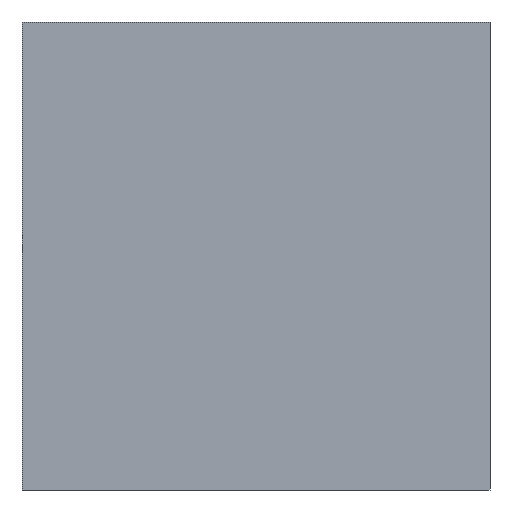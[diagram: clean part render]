
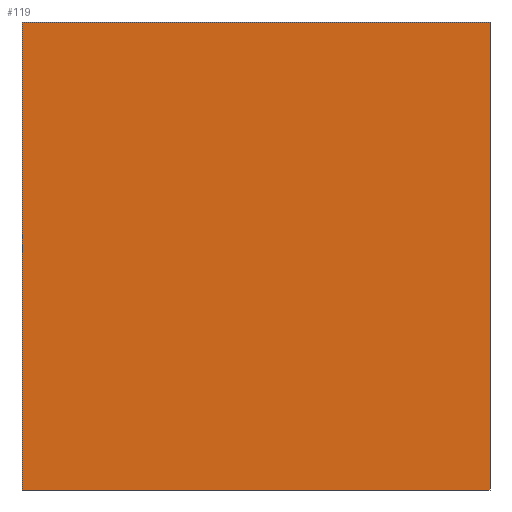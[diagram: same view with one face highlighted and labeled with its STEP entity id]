
A CAD part, left-side view. The second image highlights one B-rep face of the part: STEP entity #119.
In plain terms, the highlighted planar face has unit normal (-1, 0, 0).
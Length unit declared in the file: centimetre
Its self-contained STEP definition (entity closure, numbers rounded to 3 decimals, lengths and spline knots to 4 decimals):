
#35 = CARTESIAN_POINT ( 'NONE',  ( 0., 1000., 0. ) ) ;
#44 = ORIENTED_EDGE ( 'NONE', *, *, #160, .F. ) ;
#48 = VERTEX_POINT ( 'NONE', #196 ) ;
#57 = PLANE ( 'NONE',  #210 ) ;
#64 = CARTESIAN_POINT ( 'NONE',  ( 0., 0., 1000. ) ) ;
#71 = LINE ( 'NONE', #446, #396 ) ;
#76 = ORIENTED_EDGE ( 'NONE', *, *, #289, .T. ) ;
#77 = DIRECTION ( 'NONE',  ( 0., 0., -1. ) ) ;
#88 = DIRECTION ( 'NONE',  ( 0., 0., -1. ) ) ;
#106 = CARTESIAN_POINT ( 'NONE',  ( 0., 0., 0. ) ) ;
#117 = LINE ( 'NONE', #403, #277 ) ;
#119 = ADVANCED_FACE ( 'NONE', ( #414 ), #57, .F. ) ;
#134 = LINE ( 'NONE', #35, #335 ) ;
#150 = EDGE_LOOP ( 'NONE', ( #433, #176, #44, #76 ) ) ;
#160 = EDGE_CURVE ( 'NONE', #311, #214, #429, .T. ) ;
#176 = ORIENTED_EDGE ( 'NONE', *, *, #336, .F. ) ;
#177 = DIRECTION ( 'NONE',  ( 0., -1., 0. ) ) ;
#181 = VERTEX_POINT ( 'NONE', #106 ) ;
#196 = CARTESIAN_POINT ( 'NONE',  ( 0., 1000., 0. ) ) ;
#199 = CARTESIAN_POINT ( 'NONE',  ( 0., 1000., 1000. ) ) ;
#200 = VECTOR ( 'NONE', #309, 100. ) ;
#210 = AXIS2_PLACEMENT_3D ( 'NONE', #199, #410, #88 ) ;
#214 = VERTEX_POINT ( 'NONE', #64 ) ;
#239 = EDGE_CURVE ( 'NONE', #48, #181, #134, .T. ) ;
#248 = CARTESIAN_POINT ( 'NONE',  ( 0., 1000., 1000. ) ) ;
#277 = VECTOR ( 'NONE', #77, 100. ) ;
#289 = EDGE_CURVE ( 'NONE', #311, #48, #71, .T. ) ;
#292 = DIRECTION ( 'NONE',  ( 0., 0., -1. ) ) ;
#309 = DIRECTION ( 'NONE',  ( 0., -1., 0. ) ) ;
#311 = VERTEX_POINT ( 'NONE', #333 ) ;
#333 = CARTESIAN_POINT ( 'NONE',  ( 0., 1000., 1000. ) ) ;
#335 = VECTOR ( 'NONE', #177, 100. ) ;
#336 = EDGE_CURVE ( 'NONE', #214, #181, #117, .T. ) ;
#396 = VECTOR ( 'NONE', #292, 100. ) ;
#403 = CARTESIAN_POINT ( 'NONE',  ( 0., 0., 1000. ) ) ;
#410 = DIRECTION ( 'NONE',  ( 1., 0., 0. ) ) ;
#414 = FACE_OUTER_BOUND ( 'NONE', #150, .T. ) ;
#429 = LINE ( 'NONE', #248, #200 ) ;
#433 = ORIENTED_EDGE ( 'NONE', *, *, #239, .T. ) ;
#446 = CARTESIAN_POINT ( 'NONE',  ( 0., 1000., 1000. ) ) ;
